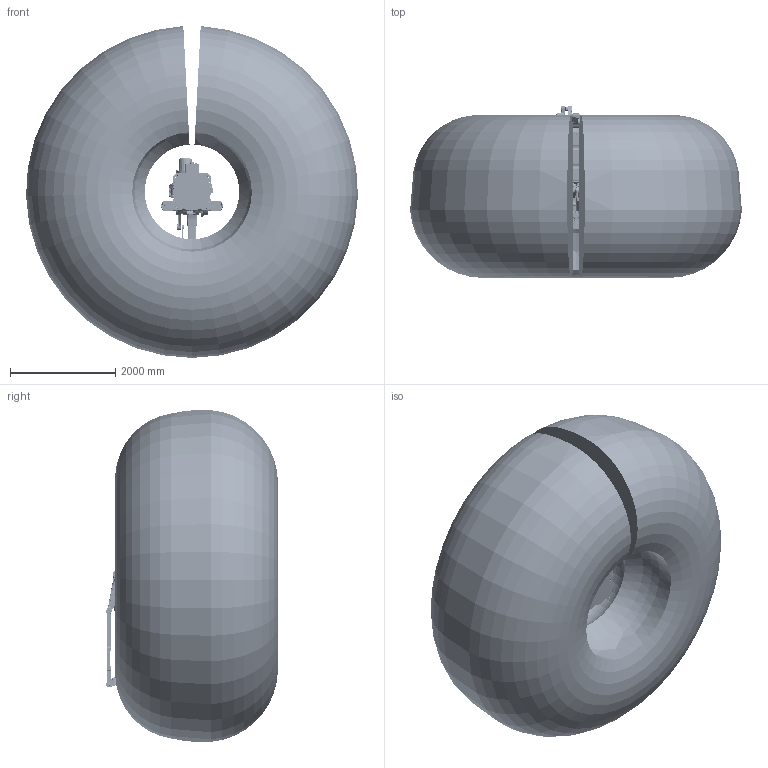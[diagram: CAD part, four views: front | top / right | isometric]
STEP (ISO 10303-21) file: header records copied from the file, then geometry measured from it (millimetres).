
FILE_DESCRIPTION((''),'2;1');
FILE_NAME('R260-3100M_ASM','2024-07-02T14:56:49',('Administrator'),(''),'CREO PARAMETRIC BY PTC INC, 2018260','CREO PARAMETRIC BY PTC INC, 2018260','');
FILE_SCHEMA(('CONFIG_CONTROL_DESIGN','SHAPE_APPEARANCE_LAYERS_GROUPS'));
Length unit declared in the file: millimetre
Products named in the file (16): R260-3100M_BASE; R260-3100M_JOINT1; R260-3100M_JOINT2; R260-3100M_JOINT3; R260-3100M_WRIST; R260-3100M_JOINT4; R260-3100M_PULL-ROD; R260-3100M_LINK; R260-3100M_BALANCE-CYLINDER; R260-3100M_ANGLE-BRACKET; R260-3100M_VERTICAL-ROD; R260-3100M_HORIZONTAL-ROD; R260-3100M_SHAFT; R260-3100M_RANGE; R260-3100M_RANGE2; R260-3100M_ASM
Assembly tree (15 placements, depth 2):
  R260-3100M_ASM
    R260-3100M_BASE
    R260-3100M_JOINT1
    R260-3100M_JOINT2
    R260-3100M_JOINT3
    R260-3100M_WRIST
    R260-3100M_JOINT4
    R260-3100M_PULL-ROD
    R260-3100M_LINK
    R260-3100M_BALANCE-CYLINDER
    R260-3100M_ANGLE-BRACKET
    R260-3100M_VERTICAL-ROD
    R260-3100M_HORIZONTAL-ROD
    R260-3100M_SHAFT
    R260-3100M_RANGE
    R260-3100M_RANGE2
Bounding box: 6302.44 x 3266.19 x 6305.69 mm (x, y, z)
Volume: 69939766170.4 mm3; surface area: 145810176.7 mm2
Topology: 15 solids, 46 shells, 17476 faces, 44596 edges, 27498 vertices
Faces by surface type: cylinder 6544, plane 3907, torus 2366, cone 1976, bspline 1674, extrusion 495, sphere 407, revolution 107
Entity records: 685968 total; most frequent: CARTESIAN_POINT 243614, ORIENTED_EDGE 87496, DIRECTION 86152, EDGE_CURVE 43761, AXIS2_PLACEMENT_3D 34902, VERTEX_POINT 27498, CIRCLE 19665, EDGE_LOOP 19158
